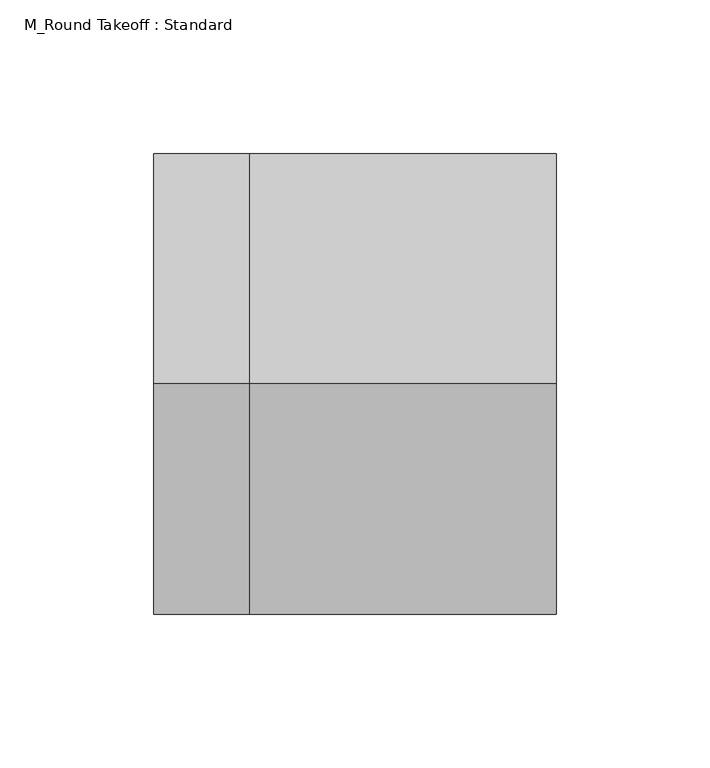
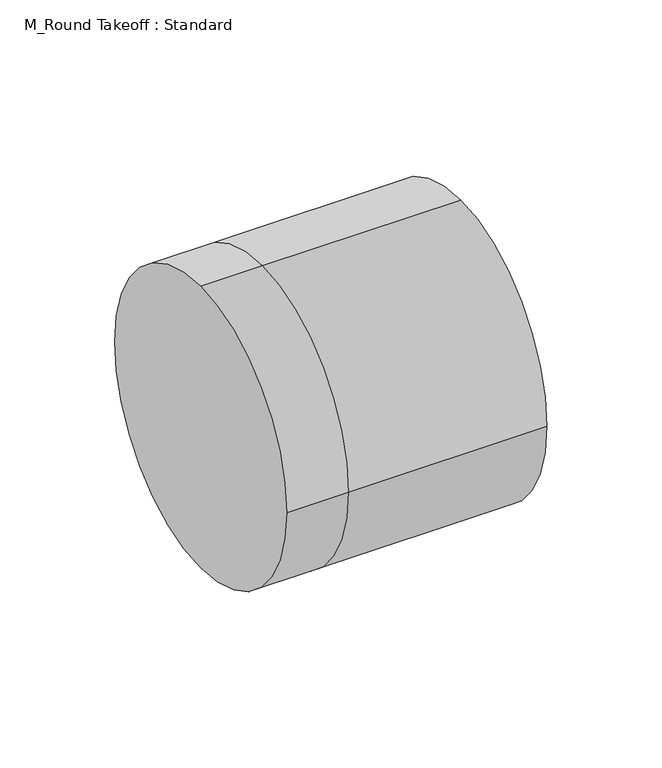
"""IFC4 building model written with IfcOpenShell, lengths in millimetres: duct fitting geometry, M_Round Takeoff : Standard."""

from ifc_helpers import new_model, si_unit, frame, origin, place, context, project, spatial, circle_curve, source, transform, mapped, element, save
from ifc_brep_helpers import plane_surface, cylinder_surface, advanced_brep


def m_round_takeoff_standard_af322dea(model_context):
    return source(origin(), model_context, "Body", "AdvancedBrep", [
        advanced_brep(
        [(-31.1040253, 0.0, 75.0), (-31.1040253, 75.0, 0.0), (-31.1040253, 0.0, -75.0), (-31.1040253, -75.0, 0.0), (0.0, -75.0, 0.0), (0.0, 0.0, 75.0), (0.0, 0.0, -75.0), (0.0, 75.0, 0.0), (100.0, 0.0, 75.0), (100.0, -75.0, 0.0), (100.0, 0.0, -75.0), (100.0, 75.0, 0.0)],
        [
            (0, 1, circle_curve(frame((-31.1040253, 0.0, 0.0), z_axis=(-1.0, 0.0, 0.0), x_axis=(0.0, -1.0, 0.0)), 75.0)),
            (1, 2, circle_curve(frame((-31.1040253, 0.0, 0.0), z_axis=(-1.0, 0.0, 0.0), x_axis=(0.0, -1.0, 0.0)), 75.0)),
            (2, 3, circle_curve(frame((-31.1040253, 0.0, 0.0), z_axis=(-1.0, 0.0, 0.0), x_axis=(0.0, -1.0, 0.0)), 75.0)),
            (3, 0, circle_curve(frame((-31.1040253, 0.0, 0.0), z_axis=(-1.0, 0.0, 0.0), x_axis=(0.0, -1.0, 0.0)), 75.0)),
            (3, 4),
            (4, 5, circle_curve(frame((0.0, 0.0, 0.0), z_axis=(-1.0, 0.0, 0.0), x_axis=(0.0, -1.0, 0.0)), 75.0)),
            (5, 0),
            (2, 6),
            (6, 4, circle_curve(frame((0.0, 0.0, 0.0), z_axis=(-1.0, 0.0, 0.0), x_axis=(0.0, -1.0, 0.0)), 75.0)),
            (1, 7),
            (7, 6, circle_curve(frame((0.0, 0.0, 0.0), z_axis=(-1.0, 0.0, 0.0), x_axis=(0.0, -1.0, 0.0)), 75.0)),
            (5, 7, circle_curve(frame((0.0, 0.0, 0.0), z_axis=(-1.0, 0.0, 0.0), x_axis=(0.0, -1.0, 0.0)), 75.0)),
            (8, 9, circle_curve(frame((100.0, 0.0, 0.0), z_axis=(1.0, 0.0, 0.0), x_axis=(0.0, -1.0, 0.0)), 75.0)),
            (9, 10, circle_curve(frame((100.0, 0.0, 0.0), z_axis=(1.0, 0.0, 0.0), x_axis=(0.0, -1.0, 0.0)), 75.0)),
            (10, 11, circle_curve(frame((100.0, 0.0, 0.0), z_axis=(1.0, 0.0, 0.0), x_axis=(0.0, -1.0, 0.0)), 75.0)),
            (11, 8, circle_curve(frame((100.0, 0.0, 0.0), z_axis=(1.0, 0.0, 0.0), x_axis=(0.0, -1.0, 0.0)), 75.0)),
            (8, 5),
            (4, 9),
            (6, 10),
            (7, 11),
        ],
        [
            plane_surface(frame((-31.1040253, 0.0, 0.0), z_axis=(-1.0, 0.0, 0.0), x_axis=(0.0, 0.0, 1.0))),
            cylinder_surface(frame((-31.1040253, 0.0, 0.0), z_axis=(-1.0, 0.0, 0.0), x_axis=(0.0, -1.0, 0.0)), 75.0),
            plane_surface(frame((100.0, 0.0, 0.0), z_axis=(1.0, 0.0, 0.0), x_axis=(0.0, 0.0, 1.0))),
            cylinder_surface(frame((0.0, 0.0, 0.0), z_axis=(-1.0, 0.0, 0.0), x_axis=(0.0, -1.0, 0.0)), 75.0),
        ],
        [
            (0, [[1, 2, 3, 4]]),
            (1, [[5, 6, 7, -4]]),
            (1, [[8, 9, -5, -3]]),
            (1, [[10, 11, -8, -2]]),
            (1, [[-7, 12, -10, -1]]),
            (2, [[13, 14, 15, 16]]),
            (3, [[17, -6, 18, -13]]),
            (3, [[-18, -9, 19, -14]]),
            (3, [[-19, -11, 20, -15]]),
            (3, [[-20, -12, -17, -16]]),
        ],
    ),
        advanced_brep(
        [(100.0, 0.0, 75.0), (100.0, -75.0, 0.0), (100.0, 0.0, -75.0), (100.0, 75.0, 0.0), (0.0, 0.0, 75.0), (0.0, -75.0, 0.0), (0.0, 0.0, -75.0), (0.0, 75.0, 0.0), (-31.1040253, 0.0, 75.0), (-31.1040253, 75.0, 0.0), (-31.1040253, 0.0, -75.0), (-31.1040253, -75.0, 0.0)],
        [
            (0, 1, circle_curve(frame((100.0, 0.0, 0.0), z_axis=(1.0, 0.0, 0.0), x_axis=(0.0, -1.0, 0.0)), 75.0)),
            (1, 2, circle_curve(frame((100.0, 0.0, 0.0), z_axis=(1.0, 0.0, 0.0), x_axis=(0.0, -1.0, 0.0)), 75.0)),
            (2, 3, circle_curve(frame((100.0, 0.0, 0.0), z_axis=(1.0, 0.0, 0.0), x_axis=(0.0, -1.0, 0.0)), 75.0)),
            (3, 0, circle_curve(frame((100.0, 0.0, 0.0), z_axis=(1.0, 0.0, 0.0), x_axis=(0.0, -1.0, 0.0)), 75.0)),
            (0, 4),
            (4, 5, circle_curve(frame((0.0, 0.0, 0.0), z_axis=(1.0, 0.0, 0.0), x_axis=(0.0, -1.0, 0.0)), 75.0)),
            (5, 1),
            (5, 6, circle_curve(frame((0.0, 0.0, 0.0), z_axis=(1.0, 0.0, 0.0), x_axis=(0.0, -1.0, 0.0)), 75.0)),
            (6, 2),
            (6, 7, circle_curve(frame((0.0, 0.0, 0.0), z_axis=(1.0, 0.0, 0.0), x_axis=(0.0, -1.0, 0.0)), 75.0)),
            (7, 3),
            (7, 4, circle_curve(frame((0.0, 0.0, 0.0), z_axis=(1.0, 0.0, 0.0), x_axis=(0.0, -1.0, 0.0)), 75.0)),
            (8, 9, circle_curve(frame((-31.1040253, 0.0, 0.0), z_axis=(-1.0, 0.0, 0.0), x_axis=(0.0, -1.0, 0.0)), 75.0)),
            (9, 10, circle_curve(frame((-31.1040253, 0.0, 0.0), z_axis=(-1.0, 0.0, 0.0), x_axis=(0.0, -1.0, 0.0)), 75.0)),
            (10, 11, circle_curve(frame((-31.1040253, 0.0, 0.0), z_axis=(-1.0, 0.0, 0.0), x_axis=(0.0, -1.0, 0.0)), 75.0)),
            (11, 8, circle_curve(frame((-31.1040253, 0.0, 0.0), z_axis=(-1.0, 0.0, 0.0), x_axis=(0.0, -1.0, 0.0)), 75.0)),
            (11, 5),
            (4, 8),
            (10, 6),
            (9, 7),
        ],
        [
            plane_surface(frame((100.0, 0.0, 0.0), z_axis=(1.0, 0.0, 0.0), x_axis=(0.0, 0.0, 1.0))),
            cylinder_surface(frame((0.0, 0.0, 0.0), z_axis=(-1.0, 0.0, 0.0), x_axis=(0.0, -1.0, 0.0)), 75.0),
            plane_surface(frame((-31.1040253, 0.0, 0.0), z_axis=(-1.0, 0.0, 0.0), x_axis=(0.0, 0.0, 1.0))),
            cylinder_surface(frame((-31.1040253, 0.0, 0.0), z_axis=(-1.0, 0.0, 0.0), x_axis=(0.0, -1.0, 0.0)), 75.0),
        ],
        [
            (0, [[1, 2, 3, 4]]),
            (1, [[5, 6, 7, -1]]),
            (1, [[-7, 8, 9, -2]]),
            (1, [[-9, 10, 11, -3]]),
            (1, [[-11, 12, -5, -4]]),
            (2, [[13, 14, 15, 16]]),
            (3, [[17, -6, 18, -16]]),
            (3, [[19, -8, -17, -15]]),
            (3, [[20, -10, -19, -14]]),
            (3, [[-18, -12, -20, -13]]),
        ],
    ),
        advanced_brep(
        [(-31.1040253, 0.0, 75.0), (-31.1040253, 75.0, 0.0), (-31.1040253, 0.0, -75.0), (-31.1040253, -75.0, 0.0), (0.0, -75.0, 0.0), (0.0, 0.0, 75.0), (0.0, 0.0, -75.0), (0.0, 75.0, 0.0), (100.0, 0.0, 75.0), (100.0, -75.0, 0.0), (100.0, 0.0, -75.0), (100.0, 75.0, 0.0)],
        [
            (0, 1, circle_curve(frame((-31.1040253, 0.0, 0.0), z_axis=(-1.0, 0.0, 0.0), x_axis=(0.0, -1.0, 0.0)), 75.0)),
            (1, 2, circle_curve(frame((-31.1040253, 0.0, 0.0), z_axis=(-1.0, 0.0, 0.0), x_axis=(0.0, -1.0, 0.0)), 75.0)),
            (2, 3, circle_curve(frame((-31.1040253, 0.0, 0.0), z_axis=(-1.0, 0.0, 0.0), x_axis=(0.0, -1.0, 0.0)), 75.0)),
            (3, 0, circle_curve(frame((-31.1040253, 0.0, 0.0), z_axis=(-1.0, 0.0, 0.0), x_axis=(0.0, -1.0, 0.0)), 75.0)),
            (3, 4),
            (4, 5, circle_curve(frame((0.0, 0.0, 0.0), z_axis=(-1.0, 0.0, 0.0), x_axis=(0.0, -1.0, 0.0)), 75.0)),
            (5, 0),
            (2, 6),
            (6, 4, circle_curve(frame((0.0, 0.0, 0.0), z_axis=(-1.0, 0.0, 0.0), x_axis=(0.0, -1.0, 0.0)), 75.0)),
            (1, 7),
            (7, 6, circle_curve(frame((0.0, 0.0, 0.0), z_axis=(-1.0, 0.0, 0.0), x_axis=(0.0, -1.0, 0.0)), 75.0)),
            (5, 7, circle_curve(frame((0.0, 0.0, 0.0), z_axis=(-1.0, 0.0, 0.0), x_axis=(0.0, -1.0, 0.0)), 75.0)),
            (8, 9, circle_curve(frame((100.0, 0.0, 0.0), z_axis=(1.0, 0.0, 0.0), x_axis=(0.0, -1.0, 0.0)), 75.0)),
            (9, 10, circle_curve(frame((100.0, 0.0, 0.0), z_axis=(1.0, 0.0, 0.0), x_axis=(0.0, -1.0, 0.0)), 75.0)),
            (10, 11, circle_curve(frame((100.0, 0.0, 0.0), z_axis=(1.0, 0.0, 0.0), x_axis=(0.0, -1.0, 0.0)), 75.0)),
            (11, 8, circle_curve(frame((100.0, 0.0, 0.0), z_axis=(1.0, 0.0, 0.0), x_axis=(0.0, -1.0, 0.0)), 75.0)),
            (8, 5),
            (4, 9),
            (6, 10),
            (7, 11),
        ],
        [
            plane_surface(frame((-31.1040253, 0.0, 0.0), z_axis=(-1.0, 0.0, 0.0), x_axis=(0.0, 0.0, 1.0))),
            cylinder_surface(frame((-31.1040253, 0.0, 0.0), z_axis=(-1.0, 0.0, 0.0), x_axis=(0.0, -1.0, 0.0)), 75.0),
            plane_surface(frame((100.0, 0.0, 0.0), z_axis=(1.0, 0.0, 0.0), x_axis=(0.0, 0.0, 1.0))),
            cylinder_surface(frame((0.0, 0.0, 0.0), z_axis=(-1.0, 0.0, 0.0), x_axis=(0.0, -1.0, 0.0)), 75.0),
        ],
        [
            (0, [[1, 2, 3, 4]]),
            (1, [[5, 6, 7, -4]]),
            (1, [[8, 9, -5, -3]]),
            (1, [[10, 11, -8, -2]]),
            (1, [[-7, 12, -10, -1]]),
            (2, [[13, 14, 15, 16]]),
            (3, [[17, -6, 18, -13]]),
            (3, [[-18, -9, 19, -14]]),
            (3, [[-19, -11, 20, -15]]),
            (3, [[-20, -12, -17, -16]]),
        ],
    ),
    ])


if __name__ == "__main__":
    model = new_model("IFC4")
    model_context = context("Model", 3, world=origin())
    ifc_project = project(units=[si_unit("LENGTHUNIT", "METRE", prefix="MILLI")], contexts=[model_context])
    site = spatial("IfcSite", under=ifc_project)
    building = spatial("IfcBuilding", under=site)
    placement = place(None, origin())
    m_round_takeoff_standard_shape = m_round_takeoff_standard_af322dea(model_context)
    element("IfcDuctFitting", 1, ObjectType="M_Round Takeoff : Standard", at=placement, inside=building, context=model_context, shape_type="MappedRepresentation", body=[
        mapped(m_round_takeoff_standard_shape, transform((0.0, 0.0, 0.0), x_axis=(1.0, 0.0, 0.0), y_axis=(0.0, 1.0, 0.0), z_axis=(0.0, 0.0, 1.0))),
    ])
    save(model, "model.ifc")
